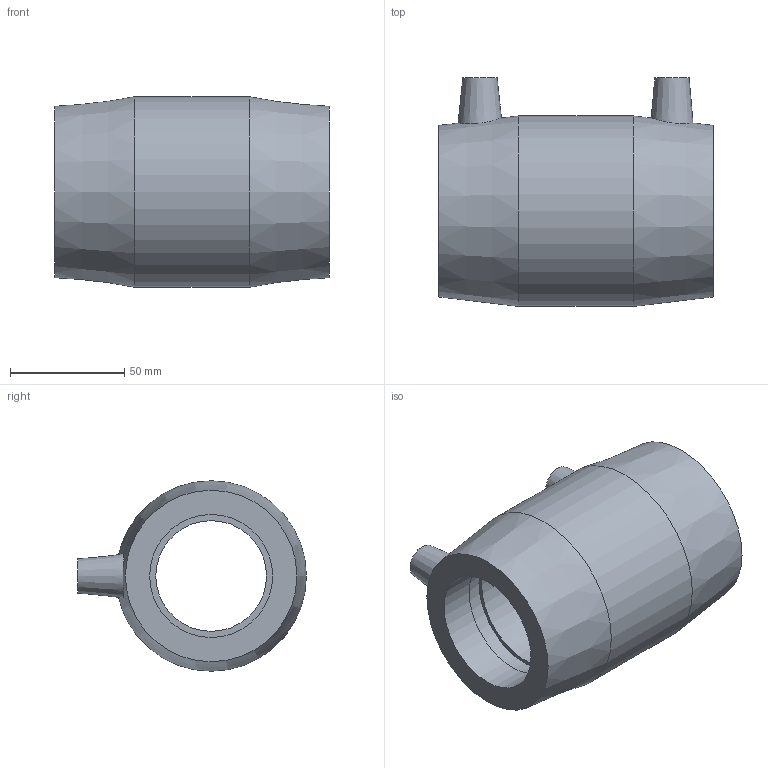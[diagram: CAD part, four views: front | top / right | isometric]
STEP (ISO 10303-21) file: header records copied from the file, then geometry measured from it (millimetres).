
FILE_DESCRIPTION(/* description */ ('PLASSON ASTM REDUCING COUPLER 2''''IPS-2''''CTS'),/* implementation_level */ '2;1');
FILE_NAME(/* name */ 'C:\Dropbox\KIMPROJECTS-Inventor 2019\99-16-3568-Processing Inch\ASTM ElectroFusion 2021\5911\5911BU03020020.ipt.stp',/* time_stamp */ '2021-08-30T09:50:17+03:00',/* author */ ('KIM'),/* organization */ (''),/* preprocessor_version */ 'ST-DEVELOPER v17.2',/* originating_system */ 'Autodesk Inventor 2019',/* authorisation */ '');
FILE_SCHEMA (('AUTOMOTIVE_DESIGN { 1 0 10303 214 3 1 1 }'));
Length unit declared in the file: inch
Products named in the file (1): 5911BU03020020
Bounding box: 119.89 x 100.08 x 83.31 mm (x, y, z)
Volume: 316801.4 mm3; surface area: 60766.8 mm2
Topology: 1 solids, 1 shells, 29 faces, 66 edges, 49 vertices
Faces by surface type: plane 12, cylinder 10, cone 7
Full cylindrical faces by diameter (mm): 4 x2, 10 x2, 48.42 x1, 53.8 x2, 60.1 x2, 83.312 x1
Entity records: 972 total; most frequent: CARTESIAN_POINT 213, DIRECTION 167, ORIENTED_EDGE 132, AXIS2_PLACEMENT_3D 75, EDGE_CURVE 66, VERTEX_POINT 49, CIRCLE 45, EDGE_LOOP 41
